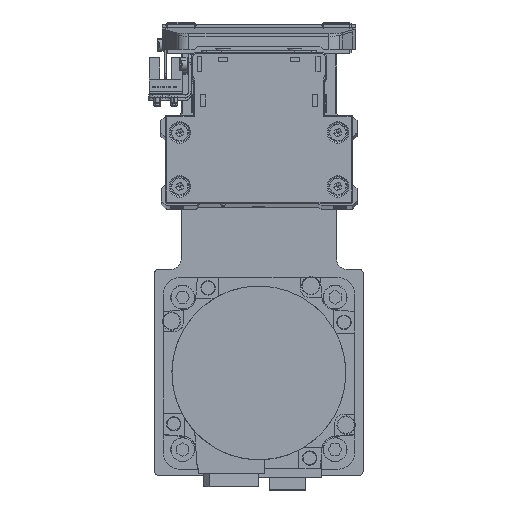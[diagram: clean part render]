
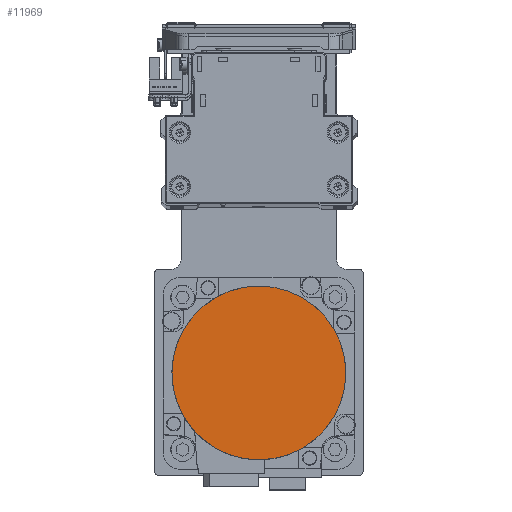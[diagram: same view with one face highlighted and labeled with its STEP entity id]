
A CAD part, top view. The second image highlights one B-rep face of the part: STEP entity #11969.
In plain terms, the highlighted planar face has unit normal (0, 0, 1) as drawn and (0, 0, -1) by its records, which use the part's own axes.
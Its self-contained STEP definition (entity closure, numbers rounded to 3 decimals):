
#717 = VERTEX_POINT ( 'NONE', #31634 ) ;
#1106 = AXIS2_PLACEMENT_3D ( 'NONE', #22860, #35138, #7590 ) ;
#5117 = DIRECTION ( 'NONE',  ( 1., 0., 0. ) ) ;
#5436 = CARTESIAN_POINT ( 'NONE',  ( 0., 36.3, -122.2 ) ) ;
#7590 = DIRECTION ( 'NONE',  ( 0., -1., 0. ) ) ;
#8141 = PLANE ( 'NONE',  #27519 ) ;
#8751 = EDGE_CURVE ( 'NONE', #717, #26361, #18461, .T. ) ;
#9025 = CIRCLE ( 'NONE', #14139, 36.3 ) ;
#11817 = DIRECTION ( 'NONE',  ( 0., 1., 0. ) ) ;
#11969 = ADVANCED_FACE ( 'NONE', ( #35694 ), #8141, .F. ) ;
#13978 = EDGE_CURVE ( 'NONE', #26361, #717, #9025, .T. ) ;
#14139 = AXIS2_PLACEMENT_3D ( 'NONE', #27111, #39407, #11817 ) ;
#16377 = ORIENTED_EDGE ( 'NONE', *, *, #8751, .F. ) ;
#18461 = CIRCLE ( 'NONE', #1106, 36.3 ) ;
#20404 = CARTESIAN_POINT ( 'NONE',  ( 0., 0., -122.2 ) ) ;
#22860 = CARTESIAN_POINT ( 'NONE',  ( 0., 0., -122.2 ) ) ;
#26361 = VERTEX_POINT ( 'NONE', #5436 ) ;
#27111 = CARTESIAN_POINT ( 'NONE',  ( 0., 0., -122.2 ) ) ;
#27519 = AXIS2_PLACEMENT_3D ( 'NONE', #20404, #32684, #5117 ) ;
#31634 = CARTESIAN_POINT ( 'NONE',  ( 0., -36.3, -122.2 ) ) ;
#32443 = ORIENTED_EDGE ( 'NONE', *, *, #13978, .F. ) ;
#32684 = DIRECTION ( 'NONE',  ( 0., 0., 1. ) ) ;
#35138 = DIRECTION ( 'NONE',  ( 0., 0., 1. ) ) ;
#35694 = FACE_OUTER_BOUND ( 'NONE', #36483, .T. ) ;
#36483 = EDGE_LOOP ( 'NONE', ( #32443, #16377 ) ) ;
#39407 = DIRECTION ( 'NONE',  ( 0., 0., 1. ) ) ;
